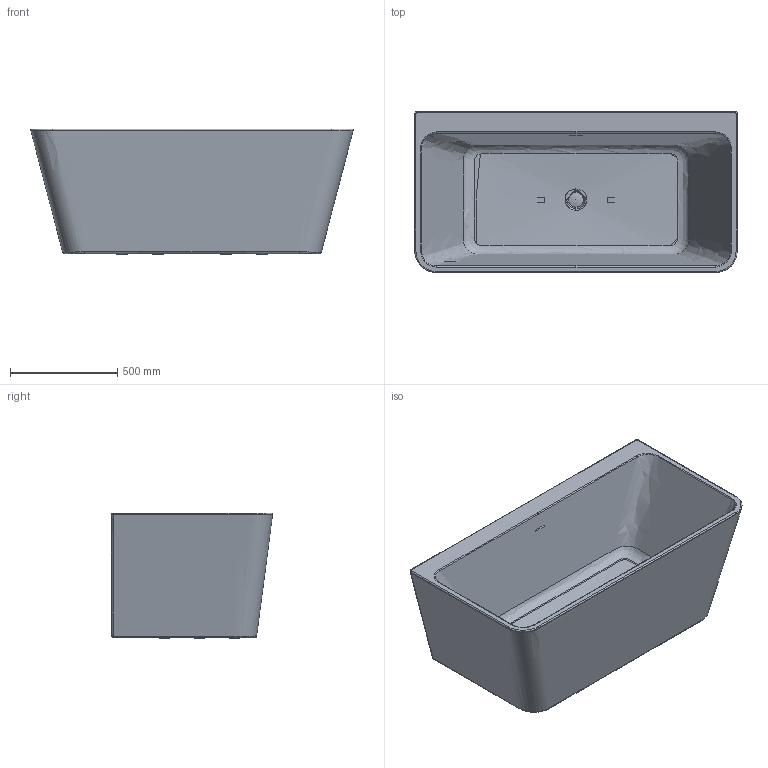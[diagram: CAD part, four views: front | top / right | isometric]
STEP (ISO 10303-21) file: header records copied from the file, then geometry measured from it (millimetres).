
FILE_DESCRIPTION(/* description */ (''),/* implementation_level */ '2;1');
FILE_NAME(/* name */ 'BT-39-150.stp',/* time_stamp */ '2023-11-29T15:22:33+08:00',/* author */ (''),/* organization */ (''),/* preprocessor_version */ 'ST-DEVELOPER v16',/* originating_system */ 'SIEMENS PLM Software NX 10.0',/* authorisation */ '');
FILE_SCHEMA (('AP203_CONFIGURATION_CONTROLLED_3D_DESIGN_OF_MECHANICAL_PARTS_AND_ASSEMBLIES_MIM_LF { 1 0 10303 403 2 1 2}'));
Products named in the file (1): Admi36C87705vj1v
Bounding box: 1500 x 750 x 586 mm (x, y, z)
Volume: 107055508.9 mm3; surface area: 9483901.6 mm2
Topology: 8 solids, 8 shells, 172 faces, 417 edges, 278 vertices
Faces by surface type: plane 81, bspline 44, cylinder 34, cone 5, torus 5, sphere 3
Full cylindrical faces by diameter (mm): 10 x1, 12 x6, 40 x1, 42.5 x1, 49 x2, 50 x7, 65.4 x1, 70 x2
Entity records: 41922 total; most frequent: CARTESIAN_POINT 38277, ORIENTED_EDGE 746, DIRECTION 604, EDGE_CURVE 373, VERTEX_POINT 271, EDGE_LOOP 236, AXIS2_PLACEMENT_3D 225, ADVANCED_FACE 171
